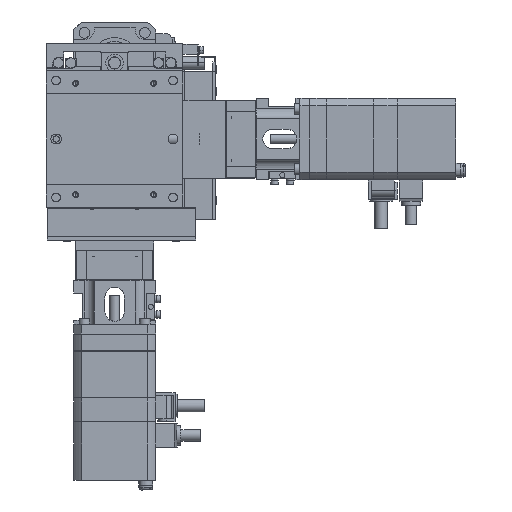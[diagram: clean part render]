
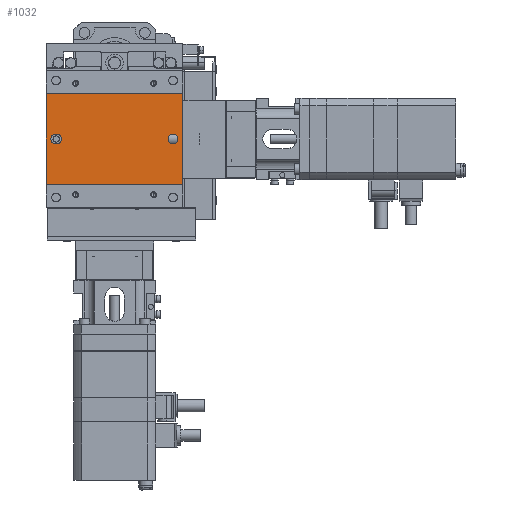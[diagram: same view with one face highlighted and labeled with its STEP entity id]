
A CAD part, front view. The second image highlights one B-rep face of the part: STEP entity #1032.
In plain terms, the highlighted planar face has unit normal (0, -1, 0).
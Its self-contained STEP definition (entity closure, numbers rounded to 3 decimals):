
#1032=ADVANCED_FACE('',(#3321,#3322,#3323),#3324,.F.);
#3321=FACE_BOUND('',#8034,.T.);
#3322=FACE_OUTER_BOUND('',#8035,.T.);
#3323=FACE_BOUND('',#8036,.T.);
#3324=PLANE('',#8037);
#8034=EDGE_LOOP('',(#13292,#13293,#13294,#13295));
#8035=EDGE_LOOP('',(#13296,#13297,#13298,#13299));
#8036=EDGE_LOOP('',(#13300,#13301,#13302));
#8037=AXIS2_PLACEMENT_3D('',#13303,#13304,#13305);
#13292=ORIENTED_EDGE('',*,*,#30380,.F.);
#13293=ORIENTED_EDGE('',*,*,#30381,.F.);
#13294=ORIENTED_EDGE('',*,*,#30382,.F.);
#13295=ORIENTED_EDGE('',*,*,#30383,.F.);
#13296=ORIENTED_EDGE('',*,*,#30369,.T.);
#13297=ORIENTED_EDGE('',*,*,#30384,.F.);
#13298=ORIENTED_EDGE('',*,*,#30385,.F.);
#13299=ORIENTED_EDGE('',*,*,#30386,.T.);
#13300=ORIENTED_EDGE('',*,*,#30266,.F.);
#13301=ORIENTED_EDGE('',*,*,#30265,.F.);
#13302=ORIENTED_EDGE('',*,*,#30387,.F.);
#13303=CARTESIAN_POINT('',(35.0,0.35,23.15));
#13304=DIRECTION('',(-0.0,1.0,0.));
#13305=DIRECTION('',(1.0,0.0,0.0));
#30265=EDGE_CURVE('',#35868,#35870,#35871,.F.);
#30266=EDGE_CURVE('',#35870,#35864,#35872,.F.);
#30369=EDGE_CURVE('',#36065,#36063,#36066,.T.);
#30380=EDGE_CURVE('',#36085,#36086,#36087,.F.);
#30381=EDGE_CURVE('',#36088,#36085,#36089,.T.);
#30382=EDGE_CURVE('',#36090,#36088,#36091,.F.);
#30383=EDGE_CURVE('',#36086,#36090,#36092,.T.);
#30384=EDGE_CURVE('',#36093,#36063,#36094,.T.);
#30385=EDGE_CURVE('',#36095,#36093,#36096,.T.);
#30386=EDGE_CURVE('',#36095,#36065,#36097,.T.);
#30387=EDGE_CURVE('',#35864,#35868,#36098,.F.);
#35864=VERTEX_POINT('',#44968);
#35868=VERTEX_POINT('',#44973);
#35870=VERTEX_POINT('',#44976);
#35871=CIRCLE('',#44977,2.5);
#35872=CIRCLE('',#44978,2.5);
#36063=VERTEX_POINT('',#45227);
#36065=VERTEX_POINT('',#45230);
#36066=LINE('',#45231,#45232);
#36085=VERTEX_POINT('',#45260);
#36086=VERTEX_POINT('',#45261);
#36087=CIRCLE('',#45262,2.5);
#36088=VERTEX_POINT('',#45263);
#36089=LINE('',#45264,#45265);
#36090=VERTEX_POINT('',#45266);
#36091=CIRCLE('',#45267,2.5);
#36092=LINE('',#45268,#45269);
#36093=VERTEX_POINT('',#45270);
#36094=LINE('',#45271,#45272);
#36095=VERTEX_POINT('',#45273);
#36096=LINE('',#45274,#45275);
#36097=LINE('',#45276,#45277);
#36098=CIRCLE('',#45278,2.5);
#44968=CARTESIAN_POINT('',(27.5,0.35,0.));
#44973=CARTESIAN_POINT('',(32.5,0.35,0.));
#44976=CARTESIAN_POINT('',(30.0,0.35,2.5));
#44977=AXIS2_PLACEMENT_3D('',#58322,#58323,#58324);
#44978=AXIS2_PLACEMENT_3D('',#58325,#58326,#58327);
#45227=CARTESIAN_POINT('',(-35.0,0.35,-23.15));
#45230=CARTESIAN_POINT('',(-35.0,0.35,23.15));
#45231=CARTESIAN_POINT('',(-35.0,0.35,23.15));
#45232=VECTOR('',#58516,1000.0);
#45260=CARTESIAN_POINT('',(-30.25,0.35,2.5));
#45261=CARTESIAN_POINT('',(-30.25,0.35,-2.5));
#45262=AXIS2_PLACEMENT_3D('',#58529,#58530,#58531);
#45263=CARTESIAN_POINT('',(-29.75,0.35,2.5));
#45264=CARTESIAN_POINT('',(35.0,0.35,2.5));
#45265=VECTOR('',#58532,1000.0);
#45266=CARTESIAN_POINT('',(-29.75,0.35,-2.5));
#45267=AXIS2_PLACEMENT_3D('',#58533,#58534,#58535);
#45268=CARTESIAN_POINT('',(35.0,0.35,-2.5));
#45269=VECTOR('',#58536,1000.0);
#45270=CARTESIAN_POINT('',(35.0,0.35,-23.15));
#45271=CARTESIAN_POINT('',(35.0,0.35,-23.15));
#45272=VECTOR('',#58537,1000.0);
#45273=CARTESIAN_POINT('',(35.0,0.35,23.15));
#45274=CARTESIAN_POINT('',(35.0,0.35,23.15));
#45275=VECTOR('',#58538,1000.0);
#45276=CARTESIAN_POINT('',(35.0,0.35,23.15));
#45277=VECTOR('',#58539,1000.0);
#45278=AXIS2_PLACEMENT_3D('',#58540,#58541,#58542);
#58322=CARTESIAN_POINT('',(30.0,0.35,0.0));
#58323=DIRECTION('',(0.0,1.0,0.));
#58324=DIRECTION('',(0.0,0.,1.0));
#58325=CARTESIAN_POINT('',(30.0,0.35,0.0));
#58326=DIRECTION('',(0.0,1.0,0.));
#58327=DIRECTION('',(0.0,0.,1.0));
#58516=DIRECTION('',(0.0,0.,-1.0));
#58529=CARTESIAN_POINT('',(-30.25,0.35,0.));
#58530=DIRECTION('',(0.0,1.0,0.));
#58531=DIRECTION('',(0.0,0.,1.0));
#58532=DIRECTION('',(-1.0,0.0,0.0));
#58533=CARTESIAN_POINT('',(-29.75,0.35,0.));
#58534=DIRECTION('',(0.0,1.0,0.));
#58535=DIRECTION('',(0.0,0.,1.0));
#58536=DIRECTION('',(1.0,0.0,0.0));
#58537=DIRECTION('',(-1.0,0.0,0.0));
#58538=DIRECTION('',(0.0,0.,-1.0));
#58539=DIRECTION('',(-1.0,0.0,0.0));
#58540=CARTESIAN_POINT('',(30.0,0.35,0.0));
#58541=DIRECTION('',(0.0,1.0,0.));
#58542=DIRECTION('',(0.0,0.,1.0));
